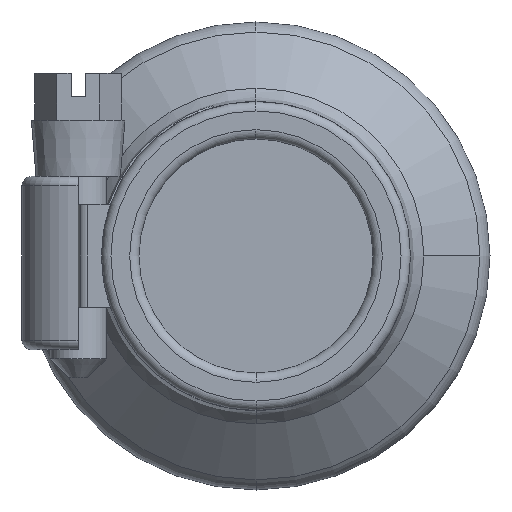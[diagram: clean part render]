
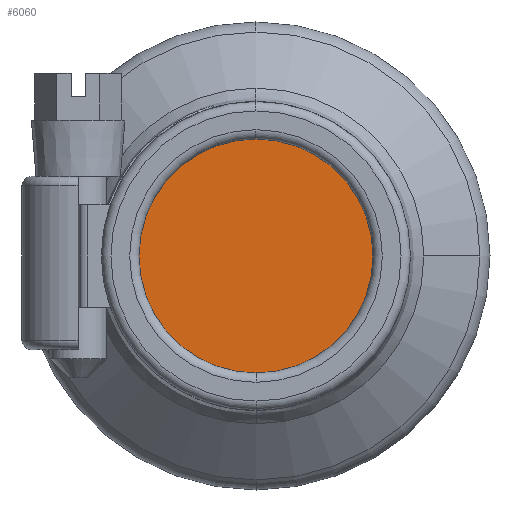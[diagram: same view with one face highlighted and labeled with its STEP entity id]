
A CAD part, left-side view. The second image highlights one B-rep face of the part: STEP entity #6060.
In plain terms, the highlighted planar face has unit normal (1, 0, 0).
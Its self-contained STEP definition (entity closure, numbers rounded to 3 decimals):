
#641=CARTESIAN_POINT('',(42.0,15.5,0.0));
#642=VERTEX_POINT('',#641);
#651=CARTESIAN_POINT('',(42.0,-15.5,0.));
#652=VERTEX_POINT('',#651);
#653=CARTESIAN_POINT('',(42.0,0.0,0.0));
#654=DIRECTION('',(1.0,0.0,0.0));
#655=DIRECTION('',(0.0,1.0,0.0));
#656=AXIS2_PLACEMENT_3D('',#653,#654,#655);
#657=CIRCLE('',#656,15.5);
#658=EDGE_CURVE('',#642,#652,#657,.T.);
#2180=CARTESIAN_POINT('',(42.0,-16.5,0.));
#2181=VERTEX_POINT('',#2180);
#2188=CARTESIAN_POINT('',(42.0,15.556,5.5));
#2189=VERTEX_POINT('',#2188);
#2190=CARTESIAN_POINT('',(42.0,0.0,0.0));
#2191=DIRECTION('',(1.0,0.0,0.0));
#2192=DIRECTION('',(0.0,1.0,0.0));
#2193=AXIS2_PLACEMENT_3D('',#2190,#2191,#2192);
#2194=CIRCLE('',#2193,16.5);
#2195=EDGE_CURVE('',#2189,#2181,#2194,.T.);
#2863=CARTESIAN_POINT('',(42.,14.5,5.5));
#2864=VERTEX_POINT('',#2863);
#2865=CARTESIAN_POINT('',(42.,14.5,5.5));
#2866=DIRECTION('',(0.,1.0,0.));
#2867=VECTOR('',#2866,1.056);
#2868=LINE('',#2865,#2867);
#2869=EDGE_CURVE('',#2864,#2189,#2868,.T.);
#2911=CARTESIAN_POINT('',(42.,14.5,-5.5));
#2912=VERTEX_POINT('',#2911);
#2913=CARTESIAN_POINT('',(42.0,0.0,0.0));
#2914=DIRECTION('',(1.0,0.0,0.0));
#2915=DIRECTION('',(0.0,0.0,-1.0));
#2916=AXIS2_PLACEMENT_3D('',#2913,#2914,#2915);
#2917=CIRCLE('',#2916,15.508);
#2918=EDGE_CURVE('',#2912,#2864,#2917,.T.);
#3148=CARTESIAN_POINT('',(42.0,15.556,-5.5));
#3149=VERTEX_POINT('',#3148);
#3150=CARTESIAN_POINT('',(42.0,15.556,-5.5));
#3151=DIRECTION('',(0.,-1.0,0.0));
#3152=VECTOR('',#3151,1.056);
#3153=LINE('',#3150,#3152);
#3154=EDGE_CURVE('',#3149,#2912,#3153,.T.);
#4118=CARTESIAN_POINT('',(42.0,0.0,0.0));
#4119=DIRECTION('',(1.0,0.0,0.0));
#4120=DIRECTION('',(0.0,1.0,0.0));
#4121=AXIS2_PLACEMENT_3D('',#4118,#4119,#4120);
#4122=CIRCLE('',#4121,16.5);
#4123=EDGE_CURVE('',#2181,#3149,#4122,.T.);
#6038=CARTESIAN_POINT('',(42.0,16.0,0.0));
#6039=DIRECTION('',(1.0,0.0,0.0));
#6040=DIRECTION('',(0.0,0.0,-1.0));
#6041=AXIS2_PLACEMENT_3D('',#6038,#6039,#6040);
#6042=PLANE('',#6041);
#6043=ORIENTED_EDGE('',*,*,#2869,.T.);
#6044=ORIENTED_EDGE('',*,*,#2195,.T.);
#6045=ORIENTED_EDGE('',*,*,#4123,.T.);
#6046=ORIENTED_EDGE('',*,*,#3154,.T.);
#6047=ORIENTED_EDGE('',*,*,#2918,.T.);
#6048=EDGE_LOOP('',(#6043,#6044,#6045,#6046,#6047));
#6049=FACE_OUTER_BOUND('',#6048,.T.);
#6050=ORIENTED_EDGE('',*,*,#658,.F.);
#6051=CARTESIAN_POINT('',(42.0,0.0,0.0));
#6052=DIRECTION('',(1.0,0.0,0.0));
#6053=DIRECTION('',(0.0,1.0,0.0));
#6054=AXIS2_PLACEMENT_3D('',#6051,#6052,#6053);
#6055=CIRCLE('',#6054,15.5);
#6056=EDGE_CURVE('',#652,#642,#6055,.T.);
#6057=ORIENTED_EDGE('',*,*,#6056,.F.);
#6058=EDGE_LOOP('',(#6050,#6057));
#6059=FACE_BOUND('',#6058,.T.);
#6060=ADVANCED_FACE('',(#6049,#6059),#6042,.T.);
